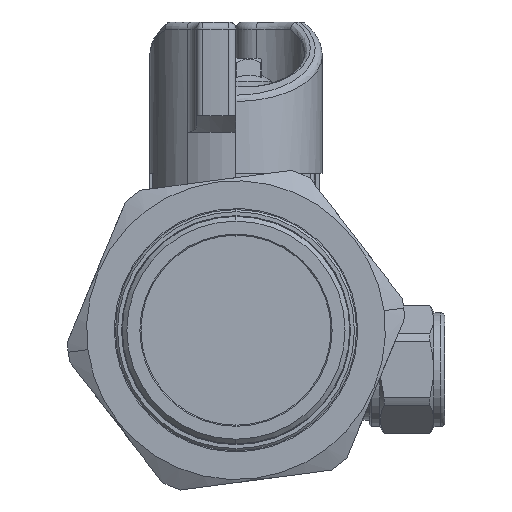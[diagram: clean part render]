
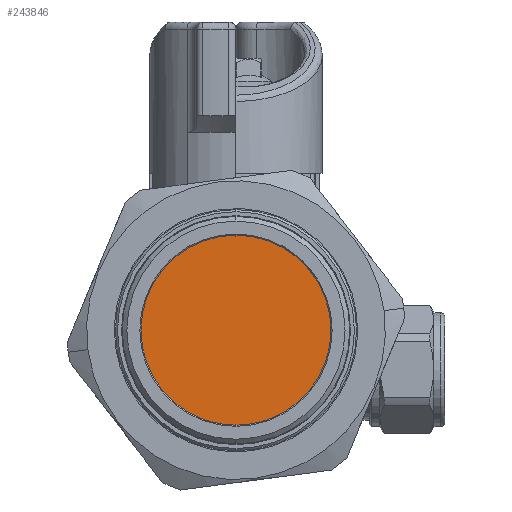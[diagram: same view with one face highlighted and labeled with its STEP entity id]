
A CAD part, front view. The second image highlights one B-rep face of the part: STEP entity #243846.
In plain terms, the highlighted planar face has unit normal (0, -1, 0).
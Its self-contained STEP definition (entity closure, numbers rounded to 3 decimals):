
#243846 = ADVANCED_FACE('',(#243847),#243862,.F.);
#243847 = FACE_BOUND('',#243848,.T.);
#243848 = EDGE_LOOP('',(#243849,#243885));
#243849 = ORIENTED_EDGE('',*,*,#243850,.F.);
#243850 = EDGE_CURVE('',#243851,#243853,#243855,.T.);
#243851 = VERTEX_POINT('',#243852);
#243852 = CARTESIAN_POINT('',(-9.962,-29.55,-24.494));
#243853 = VERTEX_POINT('',#243854);
#243854 = CARTESIAN_POINT('',(-9.962,-29.55,-50.888));
#243855 = SURFACE_CURVE('',#243856,(#243861,#243873),.PCURVE_S1.);
#243856 = CIRCLE('',#243857,13.197);
#243857 = AXIS2_PLACEMENT_3D('',#243858,#243859,#243860);
#243858 = CARTESIAN_POINT('',(-9.962,-29.55,-37.691));
#243859 = DIRECTION('',(0.,1.,0.));
#243860 = DIRECTION('',(0.,0.,1.));
#243861 = PCURVE('',#243862,#243867);
#243862 = PLANE('',#243863);
#243863 = AXIS2_PLACEMENT_3D('',#243864,#243865,#243866);
#243864 = CARTESIAN_POINT('',(-9.962,-29.55,-37.691));
#243865 = DIRECTION('',(0.,1.,0.));
#243866 = DIRECTION('',(0.,0.,1.));
#243867 = DEFINITIONAL_REPRESENTATION('',(#243868),#243872);
#243868 = CIRCLE('',#243869,13.197);
#243869 = AXIS2_PLACEMENT_2D('',#243870,#243871);
#243870 = CARTESIAN_POINT('',(0.,0.));
#243871 = DIRECTION('',(1.,0.));
#243872 = ( GEOMETRIC_REPRESENTATION_CONTEXT(2) 
PARAMETRIC_REPRESENTATION_CONTEXT() REPRESENTATION_CONTEXT('2D SPACE',''
  ) );
#243873 = PCURVE('',#243874,#243879);
#243874 = CONICAL_SURFACE('',#243875,12.948,0.031);
#243875 = AXIS2_PLACEMENT_3D('',#243876,#243877,#243878);
#243876 = CARTESIAN_POINT('',(-9.962,-21.55,-37.691));
#243877 = DIRECTION('',(0.,-1.,0.));
#243878 = DIRECTION('',(0.,0.,-1.));
#243879 = DEFINITIONAL_REPRESENTATION('',(#243880),#243884);
#243880 = LINE('',#243881,#243882);
#243881 = CARTESIAN_POINT('',(3.142,8.));
#243882 = VECTOR('',#243883,1.);
#243883 = DIRECTION('',(-1.,0.));
#243884 = ( GEOMETRIC_REPRESENTATION_CONTEXT(2) 
PARAMETRIC_REPRESENTATION_CONTEXT() REPRESENTATION_CONTEXT('2D SPACE',''
  ) );
#243885 = ORIENTED_EDGE('',*,*,#243886,.T.);
#243886 = EDGE_CURVE('',#243851,#243853,#243887,.T.);
#243887 = SURFACE_CURVE('',#243888,(#243893,#243904),.PCURVE_S1.);
#243888 = CIRCLE('',#243889,13.197);
#243889 = AXIS2_PLACEMENT_3D('',#243890,#243891,#243892);
#243890 = CARTESIAN_POINT('',(-9.962,-29.55,-37.691));
#243891 = DIRECTION('',(0.,-1.,0.));
#243892 = DIRECTION('',(0.,0.,1.));
#243893 = PCURVE('',#243862,#243894);
#243894 = DEFINITIONAL_REPRESENTATION('',(#243895),#243903);
#243895 = ( BOUNDED_CURVE() B_SPLINE_CURVE(2,(#243896,#243897,#243898,
    #243899,#243900,#243901,#243902),.UNSPECIFIED.,.T.,.F.) 
B_SPLINE_CURVE_WITH_KNOTS((1,2,2,2,2,1),(-2.094,0.,
    2.094,4.189,6.283,8.378),
.UNSPECIFIED.) CURVE() GEOMETRIC_REPRESENTATION_ITEM() 
RATIONAL_B_SPLINE_CURVE((1.,0.5,1.,0.5,1.,0.5,1.)) REPRESENTATION_ITEM(
  '') );
#243896 = CARTESIAN_POINT('',(13.197,0.));
#243897 = CARTESIAN_POINT('',(13.197,-22.857));
#243898 = CARTESIAN_POINT('',(-6.598,-11.429));
#243899 = CARTESIAN_POINT('',(-26.393,0.));
#243900 = CARTESIAN_POINT('',(-6.598,11.429));
#243901 = CARTESIAN_POINT('',(13.197,22.857));
#243902 = CARTESIAN_POINT('',(13.197,0.));
#243903 = ( GEOMETRIC_REPRESENTATION_CONTEXT(2) 
PARAMETRIC_REPRESENTATION_CONTEXT() REPRESENTATION_CONTEXT('2D SPACE',''
  ) );
#243904 = PCURVE('',#243905,#243910);
#243905 = CONICAL_SURFACE('',#243906,12.948,0.031);
#243906 = AXIS2_PLACEMENT_3D('',#243907,#243908,#243909);
#243907 = CARTESIAN_POINT('',(-9.962,-21.55,-37.691));
#243908 = DIRECTION('',(0.,-1.,0.));
#243909 = DIRECTION('',(0.,0.,-1.));
#243910 = DEFINITIONAL_REPRESENTATION('',(#243911),#243915);
#243911 = LINE('',#243912,#243913);
#243912 = CARTESIAN_POINT('',(3.142,8.));
#243913 = VECTOR('',#243914,1.);
#243914 = DIRECTION('',(1.,0.));
#243915 = ( GEOMETRIC_REPRESENTATION_CONTEXT(2) 
PARAMETRIC_REPRESENTATION_CONTEXT() REPRESENTATION_CONTEXT('2D SPACE',''
  ) );
